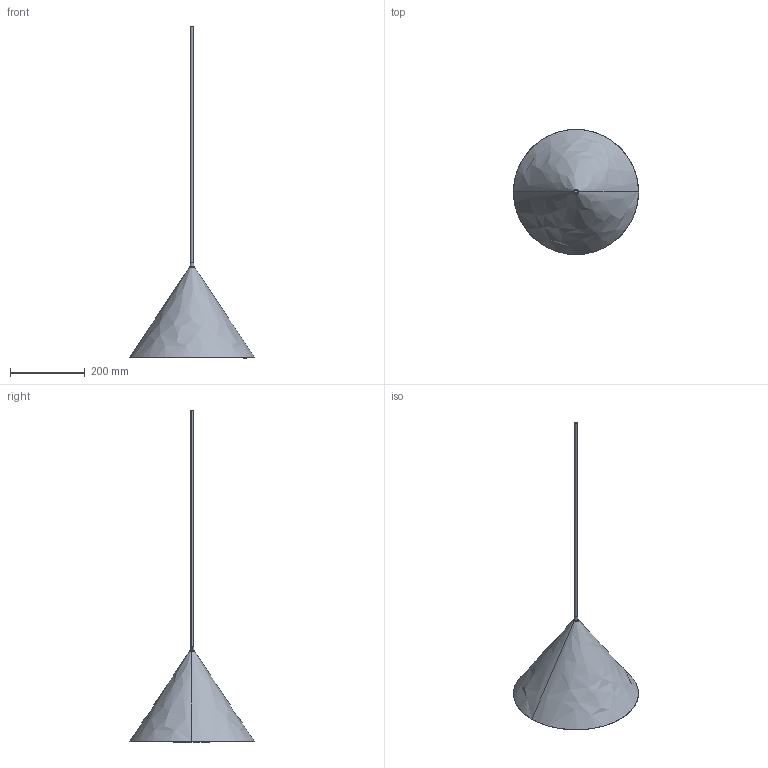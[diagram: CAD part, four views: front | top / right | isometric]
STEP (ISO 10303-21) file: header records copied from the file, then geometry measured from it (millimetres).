
FILE_DESCRIPTION(/* description */ (''),/* implementation_level */ '2;1');
FILE_NAME(/* name */ 'Annular pendant',/* time_stamp */ '2020-03-23T11:23:46+01:00',/* author */ (''),/* organization */ (''),/* preprocessor_version */ 'ST-DEVELOPER v15',/* originating_system */ '',/* authorisation */ '');
FILE_SCHEMA (('AUTOMOTIVE_DESIGN'));
Length unit declared in the file: millimetre
Products named in the file (1): Document
Bounding box: 334.01 x 334 x 886.45 mm (x, y, z)
Surface area: 595368.8 mm2
Topology: 1 solids, 14 shells, 28 faces, 75 edges, 47 vertices
Faces by surface type: bspline 28
Entity records: 1740 total; most frequent: CARTESIAN_POINT 900, B_SPLINE_CURVE_WITH_KNOTS 102, ORIENTED_EDGE 95, PCURVE 95, DEFINITIONAL_REPRESENTATION 95, SURFACE_CURVE 67, EDGE_CURVE 67, VERTEX_POINT 47
